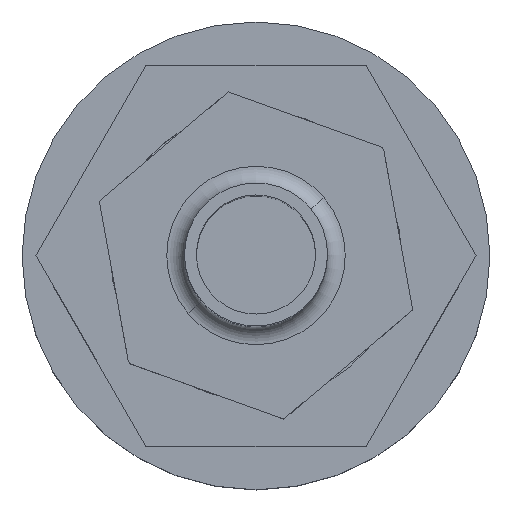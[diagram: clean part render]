
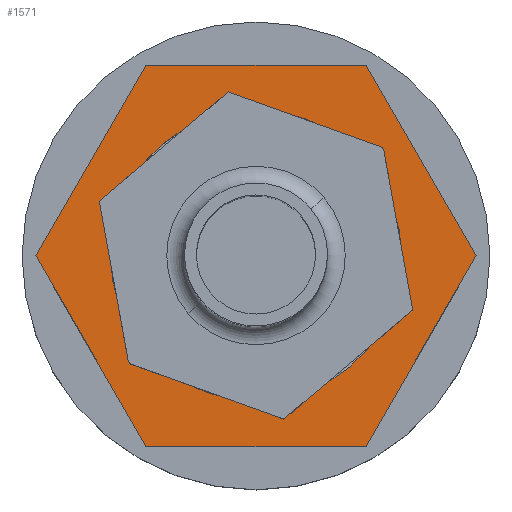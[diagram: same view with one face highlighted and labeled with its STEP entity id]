
A CAD part, top view. The second image highlights one B-rep face of the part: STEP entity #1571.
In plain terms, the highlighted planar face has unit normal (0, 0, 1).
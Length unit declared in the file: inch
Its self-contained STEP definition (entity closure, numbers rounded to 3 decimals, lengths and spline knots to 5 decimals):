
#22 = CARTESIAN_POINT ( 'NONE',  ( 1.1547, 0., 2.389 ) ) ;
#35 = CARTESIAN_POINT ( 'NONE',  ( 0.57735, -1., 2.389 ) ) ;
#53 = CARTESIAN_POINT ( 'NONE',  ( -0.7635, 0., 2.389 ) ) ;
#56 = CARTESIAN_POINT ( 'NONE',  ( 0.57735, 1., 2.389 ) ) ;
#273 = CARTESIAN_POINT ( 'NONE',  ( 0., 0., 2.389 ) ) ;
#274 = DIRECTION ( 'NONE',  ( 0., 0., -1. ) ) ;
#275 = DIRECTION ( 'NONE',  ( -1., 0., 0. ) ) ;
#298 = CARTESIAN_POINT ( 'NONE',  ( -1.1547, 0., 2.389 ) ) ;
#299 = CARTESIAN_POINT ( 'NONE',  ( -0.57735, 1., 2.389 ) ) ;
#301 = CARTESIAN_POINT ( 'NONE',  ( -0.57735, -1., 2.389 ) ) ;
#304 = CARTESIAN_POINT ( 'NONE',  ( 0.7635, 0., 2.389 ) ) ;
#319 = AXIS2_PLACEMENT_3D ( 'NONE', #615, #639, #667 ) ;
#401 = AXIS2_PLACEMENT_3D ( 'NONE', #492, #491, #486 ) ;
#486 = DIRECTION ( 'NONE',  ( -1., 0., 0. ) ) ;
#491 = DIRECTION ( 'NONE',  ( 0., 0., -1. ) ) ;
#492 = CARTESIAN_POINT ( 'NONE',  ( 0., 0., 2.389 ) ) ;
#496 = DIRECTION ( 'NONE',  ( 1., 0., 0. ) ) ;
#497 = CARTESIAN_POINT ( 'NONE',  ( -0.57735, -1., 2.389 ) ) ;
#499 = DIRECTION ( 'NONE',  ( 0.5, -0.866, 0. ) ) ;
#503 = CARTESIAN_POINT ( 'NONE',  ( -1.1547, 0., 2.389 ) ) ;
#509 = DIRECTION ( 'NONE',  ( -0.5, -0.866, 0. ) ) ;
#511 = CARTESIAN_POINT ( 'NONE',  ( -0.57735, 1., 2.389 ) ) ;
#515 = DIRECTION ( 'NONE',  ( -1., 0., 0. ) ) ;
#518 = CARTESIAN_POINT ( 'NONE',  ( 0.57735, 1., 2.389 ) ) ;
#522 = DIRECTION ( 'NONE',  ( -0.5, 0.866, 0. ) ) ;
#524 = CARTESIAN_POINT ( 'NONE',  ( 1.1547, 0., 2.389 ) ) ;
#528 = DIRECTION ( 'NONE',  ( 0.5, 0.866, 0. ) ) ;
#530 = CARTESIAN_POINT ( 'NONE',  ( 0.57735, -1., 2.389 ) ) ;
#605 = PLANE ( 'NONE',  #319 ) ;
#615 = CARTESIAN_POINT ( 'NONE',  ( 0.57735, -1., 2.389 ) ) ;
#639 = DIRECTION ( 'NONE',  ( 0., 0., -1. ) ) ;
#667 = DIRECTION ( 'NONE',  ( -1., 0., 0. ) ) ;
#680 = EDGE_CURVE ( 'NONE', #1020, #1097, #1461, .T. ) ;
#918 = ORIENTED_EDGE ( 'NONE', *, *, #1525, .T. ) ;
#924 = ORIENTED_EDGE ( 'NONE', *, *, #1528, .T. ) ;
#938 = ORIENTED_EDGE ( 'NONE', *, *, #1534, .T. ) ;
#955 = EDGE_LOOP ( 'NONE', ( #1050, #1141 ) ) ;
#995 = EDGE_LOOP ( 'NONE', ( #918, #924, #1085, #1129, #938, #1054 ) ) ;
#1009 = VERTEX_POINT ( 'NONE', #298 ) ;
#1013 = VERTEX_POINT ( 'NONE', #301 ) ;
#1020 = VERTEX_POINT ( 'NONE', #304 ) ;
#1023 = VERTEX_POINT ( 'NONE', #299 ) ;
#1035 = VERTEX_POINT ( 'NONE', #22 ) ;
#1045 = VERTEX_POINT ( 'NONE', #35 ) ;
#1050 = ORIENTED_EDGE ( 'NONE', *, *, #1536, .T. ) ;
#1054 = ORIENTED_EDGE ( 'NONE', *, *, #1535, .T. ) ;
#1085 = ORIENTED_EDGE ( 'NONE', *, *, #1530, .T. ) ;
#1097 = VERTEX_POINT ( 'NONE', #53 ) ;
#1107 = VERTEX_POINT ( 'NONE', #56 ) ;
#1129 = ORIENTED_EDGE ( 'NONE', *, *, #1532, .T. ) ;
#1141 = ORIENTED_EDGE ( 'NONE', *, *, #680, .T. ) ;
#1213 = LINE ( 'NONE', #530, #1216 ) ;
#1216 = VECTOR ( 'NONE', #528, 39.37008 ) ;
#1219 = LINE ( 'NONE', #524, #1222 ) ;
#1222 = VECTOR ( 'NONE', #522, 39.37008 ) ;
#1223 = LINE ( 'NONE', #518, #1226 ) ;
#1226 = VECTOR ( 'NONE', #515, 39.37008 ) ;
#1227 = LINE ( 'NONE', #511, #1230 ) ;
#1230 = VECTOR ( 'NONE', #509, 39.37008 ) ;
#1231 = LINE ( 'NONE', #503, #1234 ) ;
#1233 = LINE ( 'NONE', #497, #1236 ) ;
#1234 = VECTOR ( 'NONE', #499, 39.37008 ) ;
#1235 = CIRCLE ( 'NONE', #401, 0.7635 ) ;
#1236 = VECTOR ( 'NONE', #496, 39.37008 ) ;
#1286 = FACE_OUTER_BOUND ( 'NONE', #995, .T. ) ;
#1308 = FACE_BOUND ( 'NONE', #955, .T. ) ;
#1398 = AXIS2_PLACEMENT_3D ( 'NONE', #273, #274, #275 ) ;
#1461 = CIRCLE ( 'NONE', #1398, 0.7635 ) ;
#1525 = EDGE_CURVE ( 'NONE', #1045, #1035, #1213, .T. ) ;
#1528 = EDGE_CURVE ( 'NONE', #1035, #1107, #1219, .T. ) ;
#1530 = EDGE_CURVE ( 'NONE', #1107, #1023, #1223, .T. ) ;
#1532 = EDGE_CURVE ( 'NONE', #1023, #1009, #1227, .T. ) ;
#1534 = EDGE_CURVE ( 'NONE', #1009, #1013, #1231, .T. ) ;
#1535 = EDGE_CURVE ( 'NONE', #1013, #1045, #1233, .T. ) ;
#1536 = EDGE_CURVE ( 'NONE', #1097, #1020, #1235, .T. ) ;
#1571 = ADVANCED_FACE ( 'NONE', ( #1308, #1286 ), #605, .F. ) ;
